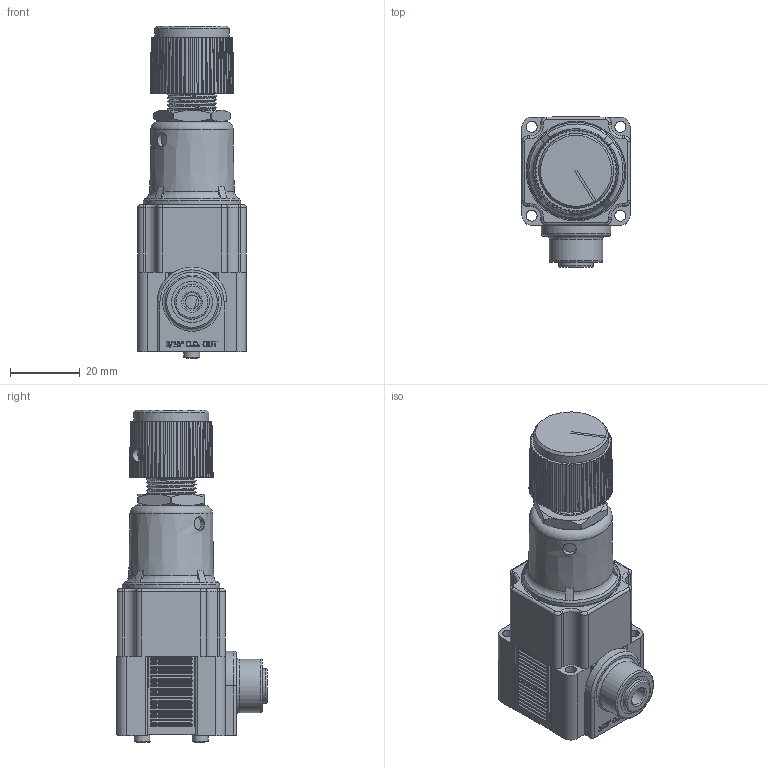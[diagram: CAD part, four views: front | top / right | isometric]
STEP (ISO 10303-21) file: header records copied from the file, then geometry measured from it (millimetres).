
FILE_DESCRIPTION(/* description */ (''),/* implementation_level */ '2;1');
FILE_NAME(/* name */ 'K:\Normteile INVENTOR\Air-Logic\Regulators\R6000\R 6___ 4 Push-In Fitting for 3''16 O.D. Tube Out.igs.ipt.stp',/* time_stamp */ '2020-05-27T10:57:11+02:00',/* author */ ('Paul'),/* organization */ (''),/* preprocessor_version */ 'ST-DEVELOPER v18',/* originating_system */ 'Autodesk Inventor 2020',/* authorisation */ '');
FILE_SCHEMA (('AUTOMOTIVE_DESIGN { 1 0 10303 214 3 1 1 }'));
Length unit declared in the file: inch
Products named in the file (1): R 6___ 4 Push-In Fitting for 3'16 O.D. Tube Out.igs
Bounding box: 31.19 x 43.08 x 95.02 mm (x, y, z)
Volume: 58685.8 mm3; surface area: 18142.9 mm2
Topology: 1 solids, 1 shells, 1118 faces, 2903 edges, 1879 vertices
Faces by surface type: plane 541, cylinder 352, bspline 106, cone 83, torus 36
Full cylindrical faces by diameter (mm): 1.194 x1, 2.032 x1, 3.124 x2, 3.175 x8, 3.785 x1, 3.988 x1, 4.064 x1, 4.521 x2, 5.207 x1, 6.045 x1, 8.382 x2, 9.169 x1, 9.398 x1, 9.906 x1, 11.735 x1, 12.903 x1, 15.291 x1, 19.406 x1, 21.476 x1, 27.94 x1, 28.575 x1
Entity records: 41272 total; most frequent: CARTESIAN_POINT 12639, ORIENTED_EDGE 5806, DIRECTION 5713, EDGE_CURVE 2903, AXIS2_PLACEMENT_3D 2151, VERTEX_POINT 1879, LINE 1411, VECTOR 1411
